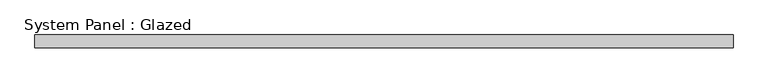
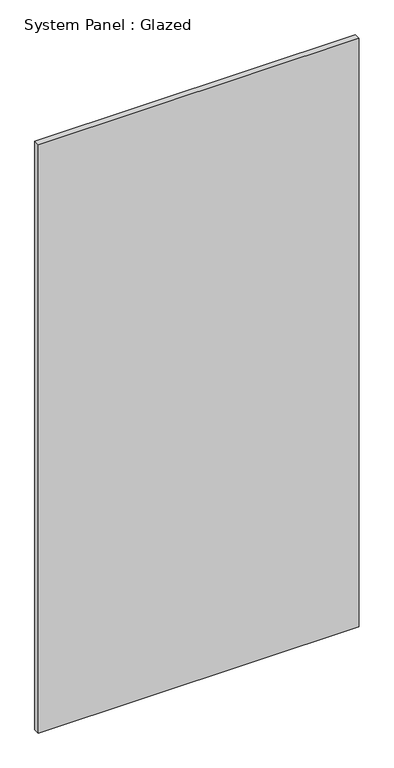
"""IFC4 building model written with IfcOpenShell, lengths in millimetres: plate geometry, System Panel : Glazed."""

from ifc_helpers import new_model, si_unit, origin, origin_with_axes, place, context, project, spatial, polyline, outline, extrude, source, transform, mapped, element, save


def system_panel_glazed_11f76c51(model_context):
    return source(origin(), model_context, "Body", "SweptSolid", [
        extrude(outline(polyline([(694.2581768, 19.05), (-694.2581768, 19.05), (-694.2581768, 44.45), (694.2581768, 44.45), (694.2581768, 19.05)])), origin_with_axes(), (0.0, 0.0, 1.0), 2692.4),
    ])


if __name__ == "__main__":
    model = new_model("IFC4")
    model_context = context("Model", 3, world=origin())
    ifc_project = project(units=[si_unit("LENGTHUNIT", "METRE", prefix="MILLI")], contexts=[model_context])
    site = spatial("IfcSite", under=ifc_project)
    building = spatial("IfcBuilding", under=site)
    placement = place(None, origin())
    system_panel_glazed_shape = system_panel_glazed_11f76c51(model_context)
    element("IfcPlate", 1, ObjectType="System Panel : Glazed", at=placement, inside=building, context=model_context, shape_type="MappedRepresentation", body=[
        mapped(system_panel_glazed_shape, transform((0.0, 0.0, 0.0), x_axis=(1.0, 0.0, 0.0), y_axis=(0.0, 1.0, 0.0), z_axis=(0.0, 0.0, 1.0))),
    ])
    save(model, "model.ifc")
